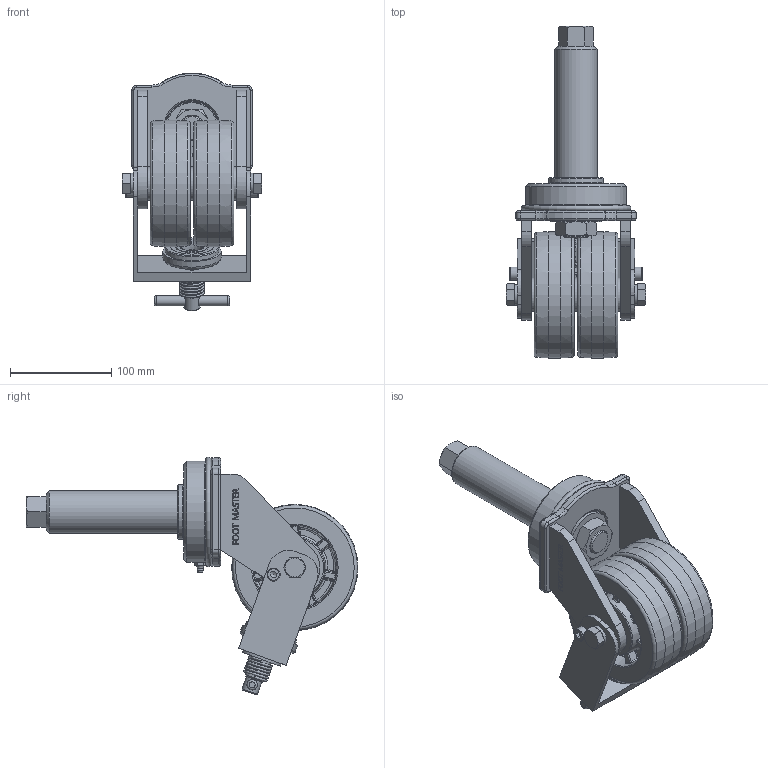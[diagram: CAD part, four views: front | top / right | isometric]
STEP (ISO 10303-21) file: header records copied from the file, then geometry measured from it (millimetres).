
FILE_DESCRIPTION(/* description */ (''),/* implementation_level */ '2;1');
FILE_NAME(/* name */ 'C:\Users\admin\Desktop\업무폴더\일자별 업무\2024\03월\03.08\홈페이지용 3D\3D\GXTT-125-BSS-HUD-PM42x130L_2.stp',/* time_stamp */ '2024-03-13T08:31:48+09:00',/* author */ ('admin'),/* organization */ (''),/* preprocessor_version */ 'ST-DEVELOPER v18.1',/* originating_system */ 'Autodesk Inventor 2021',/* authorisation */ '');
FILE_SCHEMA (('CONFIG_CONTROL_DESIGN'));
Length unit declared in the file: millimetre
Products named in the file (1): GXTT-125-BSS-HUD-PM42x130L
Bounding box: 138 x 328.5 x 235.31 mm (x, y, z)
Volume: 1650182.8 mm3; surface area: 255863.1 mm2
Topology: 4 solids, 4 shells, 1309 faces, 3109 edges, 1882 vertices
Faces by surface type: plane 461, bspline 426, cylinder 182, torus 161, cone 79
Full cylindrical faces by diameter (mm): 1 x1, 6.647 x2, 8 x2, 9 x2, 9.8 x1, 10 x1, 10.2 x1, 11.8 x1, 12 x1, 12.2 x1, 13 x2, 16 x1, 20 x1, 20.6 x2, 21 x1, 24 x1, 32 x1, 33 x3, 36 x1, 40 x1, 42 x2, 50 x1, 54 x2, 58 x1, 60 x1, 85 x1, 100 x1, 125 x2
Entity records: 50344 total; most frequent: CARTESIAN_POINT 21937, ORIENTED_EDGE 6240, DIRECTION 5426, EDGE_CURVE 3120, AXIS2_PLACEMENT_3D 2163, VERTEX_POINT 1889, EDGE_LOOP 1398, FACE_OUTER_BOUND 1309
